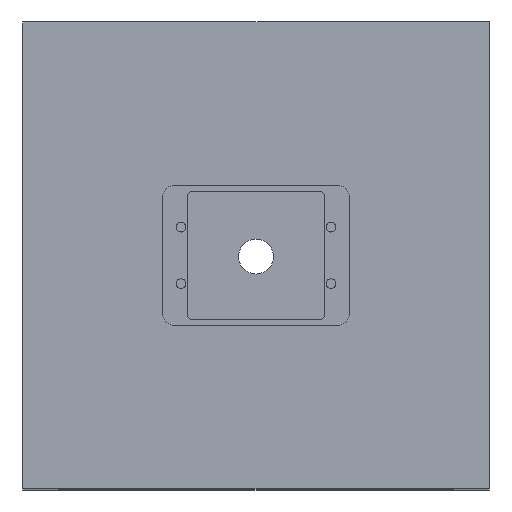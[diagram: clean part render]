
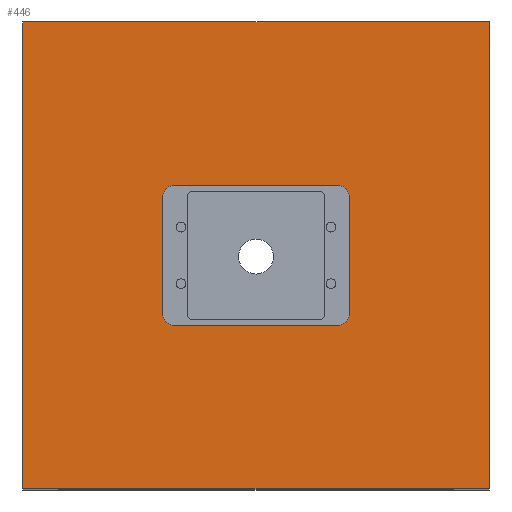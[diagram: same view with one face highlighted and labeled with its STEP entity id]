
A CAD part, top view. The second image highlights one B-rep face of the part: STEP entity #446.
In plain terms, the highlighted planar face has unit normal (0, 0, 1).
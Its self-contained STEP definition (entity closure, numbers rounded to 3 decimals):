
#53 = VECTOR ( 'NONE', #778, 1000. ) ;
#111 = ORIENTED_EDGE ( 'NONE', *, *, #1467, .F. ) ;
#134 = LINE ( 'NONE', #1900, #606 ) ;
#177 = DIRECTION ( 'NONE',  ( 1., 0., 0. ) ) ;
#185 = EDGE_CURVE ( 'NONE', #575, #1129, #1687, .T. ) ;
#191 = ORIENTED_EDGE ( 'NONE', *, *, #1072, .F. ) ;
#193 = VERTEX_POINT ( 'NONE', #694 ) ;
#207 = DIRECTION ( 'NONE',  ( -1., 0., 0. ) ) ;
#253 = DIRECTION ( 'NONE',  ( 0., 1., 0. ) ) ;
#281 = CARTESIAN_POINT ( 'NONE',  ( 100., 100., 300. ) ) ;
#283 = VERTEX_POINT ( 'NONE', #562 ) ;
#292 = LINE ( 'NONE', #1201, #53 ) ;
#299 = DIRECTION ( 'NONE',  ( 0., 1., 0. ) ) ;
#315 = VERTEX_POINT ( 'NONE', #1171 ) ;
#322 = ORIENTED_EDGE ( 'NONE', *, *, #1822, .F. ) ;
#353 = FACE_BOUND ( 'NONE', #354, .T. ) ;
#354 = EDGE_LOOP ( 'NONE', ( #191, #111, #410, #322, #1033, #1307, #689, #930 ) ) ;
#391 = CARTESIAN_POINT ( 'NONE',  ( -100., -100., 300. ) ) ;
#404 = AXIS2_PLACEMENT_3D ( 'NONE', #1662, #1545, #207 ) ;
#410 = ORIENTED_EDGE ( 'NONE', *, *, #1893, .F. ) ;
#444 = CARTESIAN_POINT ( 'NONE',  ( -35., -30., 300. ) ) ;
#446 = ADVANCED_FACE ( 'NONE', ( #353, #1345 ), #618, .T. ) ;
#526 = DIRECTION ( 'NONE',  ( 1., 0., 0. ) ) ;
#531 = LINE ( 'NONE', #989, #1882 ) ;
#561 = CARTESIAN_POINT ( 'NONE',  ( -100., 100., 300. ) ) ;
#562 = CARTESIAN_POINT ( 'NONE',  ( 35., 30., 300. ) ) ;
#565 = EDGE_CURVE ( 'NONE', #1129, #1755, #813, .T. ) ;
#575 = VERTEX_POINT ( 'NONE', #391 ) ;
#577 = EDGE_CURVE ( 'NONE', #1741, #1494, #1411, .T. ) ;
#581 = VECTOR ( 'NONE', #1568, 1000. ) ;
#582 = AXIS2_PLACEMENT_3D ( 'NONE', #1199, #1670, #1796 ) ;
#605 = AXIS2_PLACEMENT_3D ( 'NONE', #909, #754, #177 ) ;
#606 = VECTOR ( 'NONE', #1777, 1000. ) ;
#618 = PLANE ( 'NONE',  #582 ) ;
#622 = ORIENTED_EDGE ( 'NONE', *, *, #185, .T. ) ;
#648 = EDGE_LOOP ( 'NONE', ( #968, #651, #1819, #622 ) ) ;
#651 = ORIENTED_EDGE ( 'NONE', *, *, #1647, .T. ) ;
#653 = CARTESIAN_POINT ( 'NONE',  ( -100., -100., 300. ) ) ;
#662 = CARTESIAN_POINT ( 'NONE',  ( 35., -30., 300. ) ) ;
#669 = CIRCLE ( 'NONE', #1850, 5. ) ;
#689 = ORIENTED_EDGE ( 'NONE', *, *, #1125, .F. ) ;
#694 = CARTESIAN_POINT ( 'NONE',  ( -40., 25., 300. ) ) ;
#695 = DIRECTION ( 'NONE',  ( 0., -1., 0. ) ) ;
#727 = VERTEX_POINT ( 'NONE', #561 ) ;
#754 = DIRECTION ( 'NONE',  ( 0., 0., 1. ) ) ;
#778 = DIRECTION ( 'NONE',  ( -1., 0., 0. ) ) ;
#813 = LINE ( 'NONE', #1579, #1097 ) ;
#828 = CARTESIAN_POINT ( 'NONE',  ( -100., 100., 300. ) ) ;
#831 = CARTESIAN_POINT ( 'NONE',  ( -35., -25., 300. ) ) ;
#872 = EDGE_CURVE ( 'NONE', #1328, #283, #922, .T. ) ;
#883 = LINE ( 'NONE', #1921, #1601 ) ;
#885 = CIRCLE ( 'NONE', #605, 5. ) ;
#909 = CARTESIAN_POINT ( 'NONE',  ( -35., 25., 300. ) ) ;
#922 = CIRCLE ( 'NONE', #404, 5. ) ;
#930 = ORIENTED_EDGE ( 'NONE', *, *, #577, .F. ) ;
#968 = ORIENTED_EDGE ( 'NONE', *, *, #565, .T. ) ;
#989 = CARTESIAN_POINT ( 'NONE',  ( -40., 25., 300. ) ) ;
#1018 = DIRECTION ( 'NONE',  ( 1., 0., 0. ) ) ;
#1033 = ORIENTED_EDGE ( 'NONE', *, *, #872, .F. ) ;
#1072 = EDGE_CURVE ( 'NONE', #315, #1741, #1169, .T. ) ;
#1097 = VECTOR ( 'NONE', #253, 1000. ) ;
#1116 = LINE ( 'NONE', #828, #1566 ) ;
#1125 = EDGE_CURVE ( 'NONE', #1494, #1193, #669, .T. ) ;
#1129 = VERTEX_POINT ( 'NONE', #1148 ) ;
#1148 = CARTESIAN_POINT ( 'NONE',  ( 100., -100., 300. ) ) ;
#1169 = CIRCLE ( 'NONE', #1262, 5. ) ;
#1171 = CARTESIAN_POINT ( 'NONE',  ( -40., -25., 300. ) ) ;
#1181 = DIRECTION ( 'NONE',  ( 0., 0., 1. ) ) ;
#1193 = VERTEX_POINT ( 'NONE', #1333 ) ;
#1199 = CARTESIAN_POINT ( 'NONE',  ( 0., 0., 300. ) ) ;
#1201 = CARTESIAN_POINT ( 'NONE',  ( -100., 100., 300. ) ) ;
#1221 = CARTESIAN_POINT ( 'NONE',  ( -35., 30., 300. ) ) ;
#1255 = CARTESIAN_POINT ( 'NONE',  ( -35., -30., 300. ) ) ;
#1262 = AXIS2_PLACEMENT_3D ( 'NONE', #831, #1855, #526 ) ;
#1307 = ORIENTED_EDGE ( 'NONE', *, *, #1870, .F. ) ;
#1327 = VECTOR ( 'NONE', #1832, 1000. ) ;
#1328 = VERTEX_POINT ( 'NONE', #1530 ) ;
#1333 = CARTESIAN_POINT ( 'NONE',  ( 40., -25., 300. ) ) ;
#1345 = FACE_OUTER_BOUND ( 'NONE', #648, .T. ) ;
#1411 = LINE ( 'NONE', #1255, #1327 ) ;
#1467 = EDGE_CURVE ( 'NONE', #193, #315, #531, .T. ) ;
#1494 = VERTEX_POINT ( 'NONE', #662 ) ;
#1495 = EDGE_CURVE ( 'NONE', #727, #575, #1116, .T. ) ;
#1524 = VERTEX_POINT ( 'NONE', #1221 ) ;
#1530 = CARTESIAN_POINT ( 'NONE',  ( 40., 25., 300. ) ) ;
#1545 = DIRECTION ( 'NONE',  ( 0., 0., 1. ) ) ;
#1566 = VECTOR ( 'NONE', #1592, 1000. ) ;
#1568 = DIRECTION ( 'NONE',  ( 1., 0., 0. ) ) ;
#1579 = CARTESIAN_POINT ( 'NONE',  ( 100., 100., 300. ) ) ;
#1592 = DIRECTION ( 'NONE',  ( 0., -1., 0. ) ) ;
#1601 = VECTOR ( 'NONE', #299, 1000. ) ;
#1644 = CARTESIAN_POINT ( 'NONE',  ( 35., -25., 300. ) ) ;
#1647 = EDGE_CURVE ( 'NONE', #1755, #727, #292, .T. ) ;
#1662 = CARTESIAN_POINT ( 'NONE',  ( 35., 25., 300. ) ) ;
#1670 = DIRECTION ( 'NONE',  ( 0., 0., 1. ) ) ;
#1687 = LINE ( 'NONE', #653, #581 ) ;
#1741 = VERTEX_POINT ( 'NONE', #444 ) ;
#1755 = VERTEX_POINT ( 'NONE', #281 ) ;
#1777 = DIRECTION ( 'NONE',  ( -1., 0., 0. ) ) ;
#1796 = DIRECTION ( 'NONE',  ( 1., 0., 0. ) ) ;
#1819 = ORIENTED_EDGE ( 'NONE', *, *, #1495, .T. ) ;
#1822 = EDGE_CURVE ( 'NONE', #283, #1524, #134, .T. ) ;
#1832 = DIRECTION ( 'NONE',  ( 1., 0., 0. ) ) ;
#1850 = AXIS2_PLACEMENT_3D ( 'NONE', #1644, #1181, #1018 ) ;
#1855 = DIRECTION ( 'NONE',  ( 0., 0., 1. ) ) ;
#1870 = EDGE_CURVE ( 'NONE', #1193, #1328, #883, .T. ) ;
#1882 = VECTOR ( 'NONE', #695, 1000. ) ;
#1893 = EDGE_CURVE ( 'NONE', #1524, #193, #885, .T. ) ;
#1900 = CARTESIAN_POINT ( 'NONE',  ( -35., 30., 300. ) ) ;
#1921 = CARTESIAN_POINT ( 'NONE',  ( 40., 25., 300. ) ) ;
